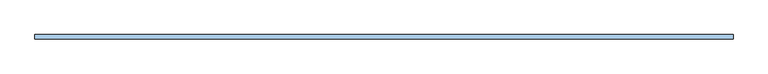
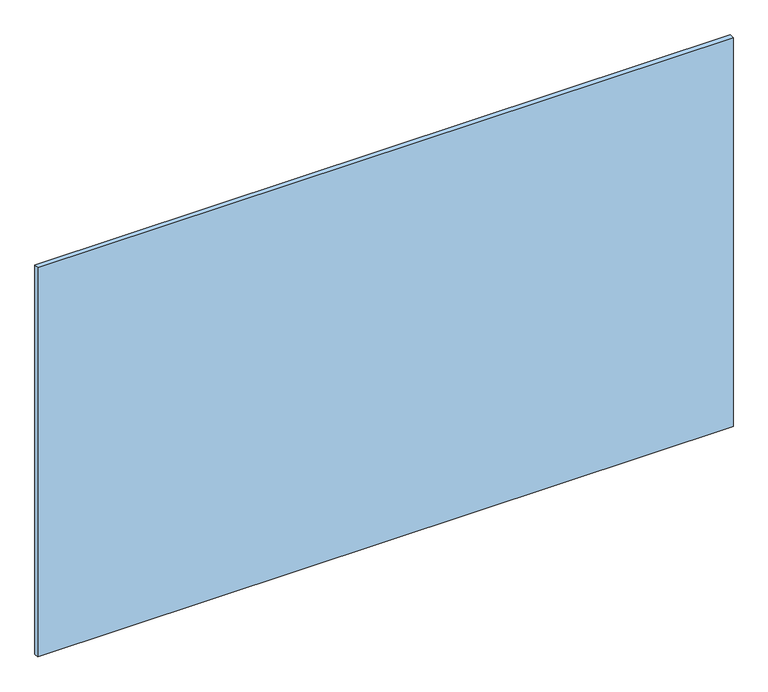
"""IFC4 building model written with IfcOpenShell, lengths in millimetres: window geometry, espejo biselado sin marco : ESP-1 espejo biselado 130 x 100."""

from ifc_helpers import new_model, si_unit, origin, origin_with_axes, place, context, project, spatial, polyline, outline, extrude, source, transform, mapped, element, save


def window_ee9af09d(model_context):
    return source(origin(), model_context, "Body", "SweptSolid", [
        extrude(outline(polyline([(-845.0, 79.0), (-845.0, 90.0), (845.0, 90.0), (845.0, 79.0), (-845.0, 79.0)])), origin_with_axes(), (0.0, 0.0, 1.0), 1000.0),
    ])


if __name__ == "__main__":
    model = new_model("IFC4")
    model_context = context("Model", 3, world=origin())
    ifc_project = project(units=[si_unit("LENGTHUNIT", "METRE", prefix="MILLI")], contexts=[model_context])
    site = spatial("IfcSite", under=ifc_project)
    building = spatial("IfcBuilding", under=site)
    placement = place(None, origin())
    window_shape = window_ee9af09d(model_context)
    element("IfcWindow", 1, ObjectType="espejo biselado sin marco : ESP-1 espejo biselado 130 x 100", at=placement, inside=building, context=model_context, shape_type="MappedRepresentation", body=[
        mapped(window_shape, transform((0.0, 0.0, 0.0), x_axis=(1.0, 0.0, 0.0), y_axis=(0.0, 1.0, 0.0), z_axis=(0.0, 0.0, 1.0))),
    ])
    save(model, "model.ifc")
